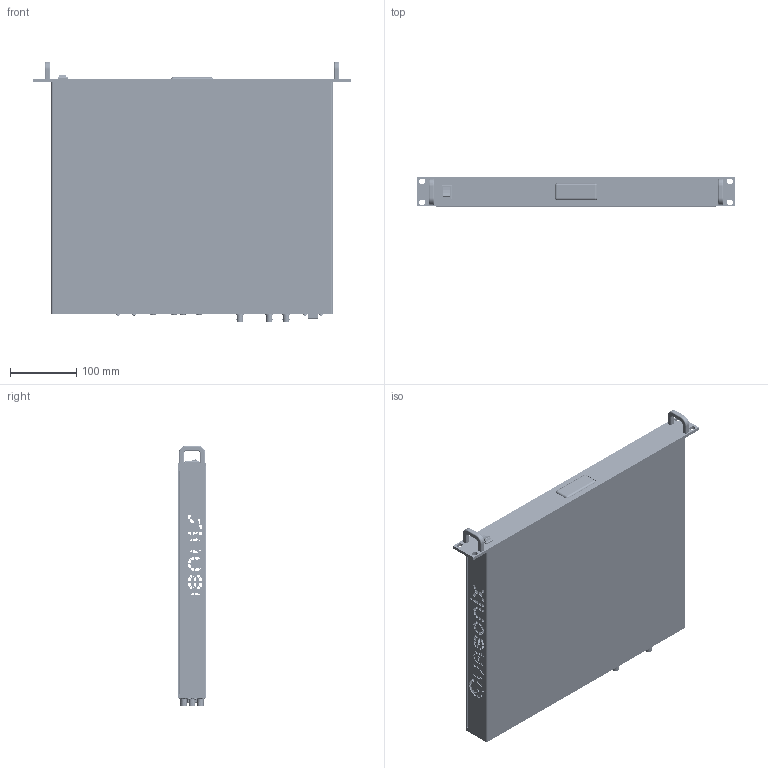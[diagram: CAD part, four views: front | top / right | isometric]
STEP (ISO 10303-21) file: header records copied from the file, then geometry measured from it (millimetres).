
FILE_DESCRIPTION (( 'STEP AP203' ), '1' );
FILE_NAME ('QS-EVTM-1URX-1CH.STEP', '2020-04-29T18:04:42', ( '' ), ( '' ), 'SwSTEP 2.0', 'SolidWorks 2018', '' );
FILE_SCHEMA (( 'CONFIG_CONTROL_DESIGN' ));
Products named in the file (1): QS-EVTM-1URX-1CH
Bounding box: 481.33 x 43.69 x 392.96 mm (x, y, z)
Volume: 795820.3 mm3; surface area: 898122.8 mm2
Topology: 71 solids, 71 shells, 7726 faces, 21351 edges, 14011 vertices
Faces by surface type: plane 2990, cylinder 2250, bspline 2054, cone 388, torus 32, sphere 12
Entity records: 371735 total; most frequent: CARTESIAN_POINT 188704, ORIENTED_EDGE 42486, DIRECTION 30925, EDGE_CURVE 21243, VERTEX_POINT 14011, LINE 11247, VECTOR 11247, AXIS2_PLACEMENT_3D 9839
